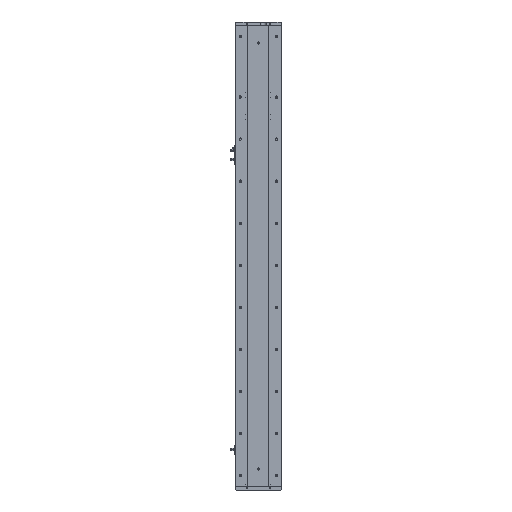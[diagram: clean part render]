
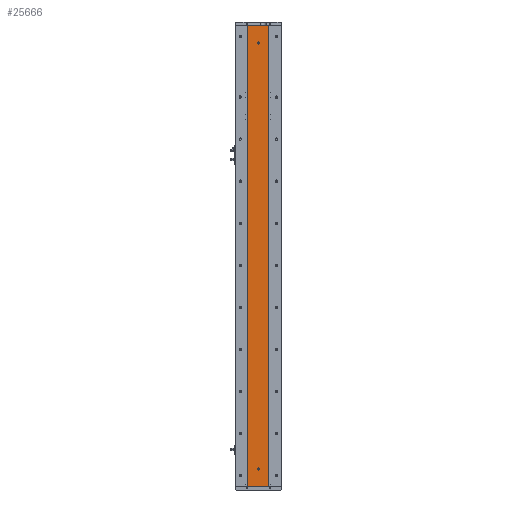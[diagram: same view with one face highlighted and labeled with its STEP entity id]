
A CAD part, left-side view. The second image highlights one B-rep face of the part: STEP entity #25666.
In plain terms, the highlighted planar face has unit normal (-1, 0, 0).
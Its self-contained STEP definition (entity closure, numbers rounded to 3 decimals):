
#101 = ORIENTED_EDGE ( 'NONE', *, *, #11433, .T. ) ;
#767 = DIRECTION ( 'NONE',  ( 0., -1., 0. ) ) ;
#1448 = CARTESIAN_POINT ( 'NONE',  ( -24.994, 0., 50. ) ) ;
#1480 = CARTESIAN_POINT ( 'NONE',  ( -24.994, 0., 1265. ) ) ;
#1645 = CARTESIAN_POINT ( 'NONE',  ( -24.994, 0., 1268. ) ) ;
#2188 = VECTOR ( 'NONE', #21198, 1000. ) ;
#3372 = CARTESIAN_POINT ( 'NONE',  ( -24.994, 0., 1265. ) ) ;
#3552 = ORIENTED_EDGE ( 'NONE', *, *, #20000, .T. ) ;
#3924 = EDGE_CURVE ( 'NONE', #18701, #13919, #9036, .T. ) ;
#3961 = CARTESIAN_POINT ( 'NONE',  ( -24.994, 29.785, 1315. ) ) ;
#4295 = AXIS2_PLACEMENT_3D ( 'NONE', #1448, #22638, #4502 ) ;
#4296 = ORIENTED_EDGE ( 'NONE', *, *, #38500, .F. ) ;
#4502 = DIRECTION ( 'NONE',  ( 0., 0., 1. ) ) ;
#4526 = DIRECTION ( 'NONE',  ( 0., 0., 1. ) ) ;
#5327 = EDGE_CURVE ( 'NONE', #13919, #10081, #35899, .T. ) ;
#5969 = CARTESIAN_POINT ( 'NONE',  ( -24.994, -29.785, 1315. ) ) ;
#6450 = DIRECTION ( 'NONE',  ( 0., 0., 1. ) ) ;
#7545 = LINE ( 'NONE', #33945, #37810 ) ;
#7692 = VERTEX_POINT ( 'NONE', #34942 ) ;
#7992 = FACE_OUTER_BOUND ( 'NONE', #26127, .T. ) ;
#8168 = ORIENTED_EDGE ( 'NONE', *, *, #3924, .F. ) ;
#8239 = AXIS2_PLACEMENT_3D ( 'NONE', #3372, #24588, #6450 ) ;
#8767 = EDGE_CURVE ( 'NONE', #22268, #7692, #14108, .T. ) ;
#9036 = LINE ( 'NONE', #3961, #31311 ) ;
#9885 = VERTEX_POINT ( 'NONE', #12589 ) ;
#10081 = VERTEX_POINT ( 'NONE', #28739 ) ;
#10627 = DIRECTION ( 'NONE',  ( 1., 0., 0. ) ) ;
#10992 = ORIENTED_EDGE ( 'NONE', *, *, #8767, .F. ) ;
#11433 = EDGE_CURVE ( 'NONE', #18701, #9885, #18256, .T. ) ;
#12019 = AXIS2_PLACEMENT_3D ( 'NONE', #28798, #10627, #31857 ) ;
#12287 = DIRECTION ( 'NONE',  ( -1., 0., 0. ) ) ;
#12589 = CARTESIAN_POINT ( 'NONE',  ( -24.994, 29.785, 0. ) ) ;
#13555 = PLANE ( 'NONE',  #12019 ) ;
#13608 = EDGE_CURVE ( 'NONE', #17031, #32054, #15967, .T. ) ;
#13919 = VERTEX_POINT ( 'NONE', #5969 ) ;
#14108 = CIRCLE ( 'NONE', #35102, 3. ) ;
#15637 = CIRCLE ( 'NONE', #22433, 3. ) ;
#15763 = ORIENTED_EDGE ( 'NONE', *, *, #5327, .F. ) ;
#15967 = CIRCLE ( 'NONE', #4295, 3. ) ;
#16803 = CARTESIAN_POINT ( 'NONE',  ( -24.994, 0., 47. ) ) ;
#17031 = VERTEX_POINT ( 'NONE', #26311 ) ;
#18256 = LINE ( 'NONE', #27285, #2188 ) ;
#18701 = VERTEX_POINT ( 'NONE', #32627 ) ;
#20000 = EDGE_CURVE ( 'NONE', #9885, #10081, #7545, .T. ) ;
#20345 = DIRECTION ( 'NONE',  ( 0., 0., -1. ) ) ;
#20533 = EDGE_CURVE ( 'NONE', #7692, #22268, #32578, .T. ) ;
#21198 = DIRECTION ( 'NONE',  ( 0., 0., -1. ) ) ;
#22230 = FACE_BOUND ( 'NONE', #30835, .T. ) ;
#22268 = VERTEX_POINT ( 'NONE', #1645 ) ;
#22433 = AXIS2_PLACEMENT_3D ( 'NONE', #30458, #12287, #33473 ) ;
#22638 = DIRECTION ( 'NONE',  ( -1., 0., 0. ) ) ;
#22664 = DIRECTION ( 'NONE',  ( -1., 0., 0. ) ) ;
#24588 = DIRECTION ( 'NONE',  ( -1., 0., 0. ) ) ;
#25666 = ADVANCED_FACE ( 'NONE', ( #22230, #30283, #7992 ), #13555, .F. ) ;
#26127 = EDGE_LOOP ( 'NONE', ( #3552, #15763, #8168, #101 ) ) ;
#26311 = CARTESIAN_POINT ( 'NONE',  ( -24.994, 0., 53. ) ) ;
#27285 = CARTESIAN_POINT ( 'NONE',  ( -24.994, 29.785, 1315. ) ) ;
#28739 = CARTESIAN_POINT ( 'NONE',  ( -24.994, -29.785, 0. ) ) ;
#28798 = CARTESIAN_POINT ( 'NONE',  ( -24.994, 29.785, 1315. ) ) ;
#30283 = FACE_BOUND ( 'NONE', #30841, .T. ) ;
#30458 = CARTESIAN_POINT ( 'NONE',  ( -24.994, 0., 50. ) ) ;
#30835 = EDGE_LOOP ( 'NONE', ( #10992, #34698 ) ) ;
#30841 = EDGE_LOOP ( 'NONE', ( #36097, #4296 ) ) ;
#31224 = DIRECTION ( 'NONE',  ( 0., -1., 0. ) ) ;
#31311 = VECTOR ( 'NONE', #31224, 1000. ) ;
#31857 = DIRECTION ( 'NONE',  ( 0., 0., -1. ) ) ;
#32054 = VERTEX_POINT ( 'NONE', #16803 ) ;
#32578 = CIRCLE ( 'NONE', #8239, 3. ) ;
#32627 = CARTESIAN_POINT ( 'NONE',  ( -24.994, 29.785, 1315. ) ) ;
#33473 = DIRECTION ( 'NONE',  ( 0., 0., 1. ) ) ;
#33945 = CARTESIAN_POINT ( 'NONE',  ( -24.994, 29.785, 0. ) ) ;
#34698 = ORIENTED_EDGE ( 'NONE', *, *, #20533, .F. ) ;
#34942 = CARTESIAN_POINT ( 'NONE',  ( -24.994, 0., 1262. ) ) ;
#35102 = AXIS2_PLACEMENT_3D ( 'NONE', #1480, #22664, #4526 ) ;
#35177 = CARTESIAN_POINT ( 'NONE',  ( -24.994, -29.785, 1315. ) ) ;
#35899 = LINE ( 'NONE', #35177, #36857 ) ;
#36097 = ORIENTED_EDGE ( 'NONE', *, *, #13608, .F. ) ;
#36857 = VECTOR ( 'NONE', #20345, 1000. ) ;
#37810 = VECTOR ( 'NONE', #767, 1000. ) ;
#38500 = EDGE_CURVE ( 'NONE', #32054, #17031, #15637, .T. ) ;
